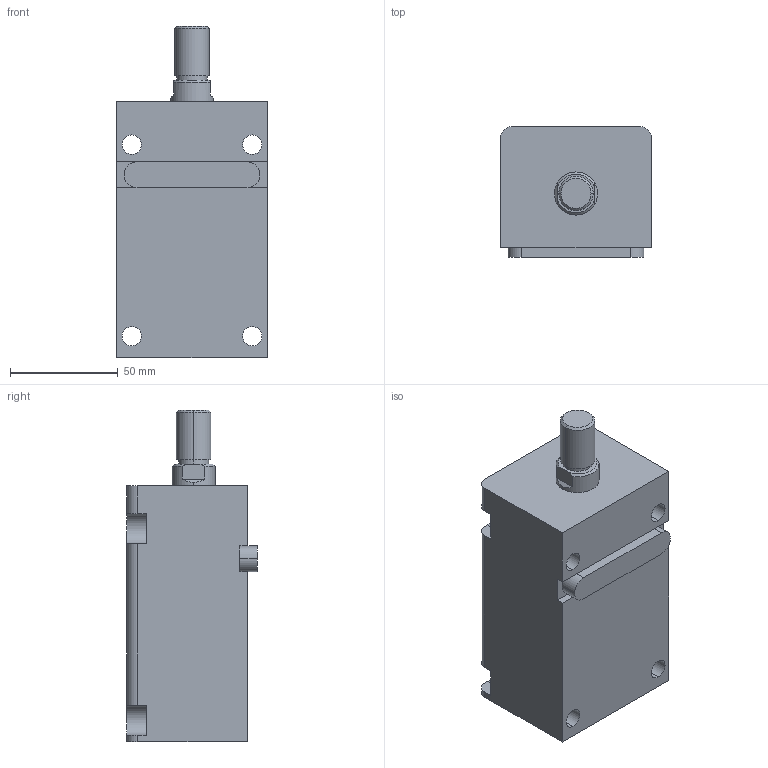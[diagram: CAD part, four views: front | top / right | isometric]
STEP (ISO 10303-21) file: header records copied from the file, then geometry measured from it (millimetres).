
FILE_DESCRIPTION (( 'STEP AP203' ), '1' );
FILE_NAME ('HTB-LA32-65W.STEP', '2019-10-09T06:29:51', ( '微软用户' ), ( '微软中国' ), 'SwSTEP 2.0', 'SolidWorks 2012', '' );
FILE_SCHEMA (( 'CONFIG_CONTROL_DESIGN' ));
Length unit declared in the file: millimetre
Products named in the file (4): HTB-LA32-65W; HTB-LA32-瑩; HTB-LA32-65掛极; HTB-LA32-65W活塞杆
Assembly tree (3 placements, depth 2):
  HTB-LA32-65W
    HTB-LA32-65掛极
    HTB-LA32-65W活塞杆
    HTB-LA32-瑩
Bounding box: 70 x 60.5 x 154 mm (x, y, z)
Volume: 424108.6 mm3; surface area: 68533.5 mm2
Topology: 3 solids, 3 shells, 92 faces, 223 edges, 146 vertices
Faces by surface type: plane 41, cylinder 37, cone 8, torus 6
Entity records: 3159 total; most frequent: DIRECTION 509, CARTESIAN_POINT 495, ORIENTED_EDGE 446, EDGE_CURVE 223, AXIS2_PLACEMENT_3D 196, VERTEX_POINT 146, LINE 117, VECTOR 117
